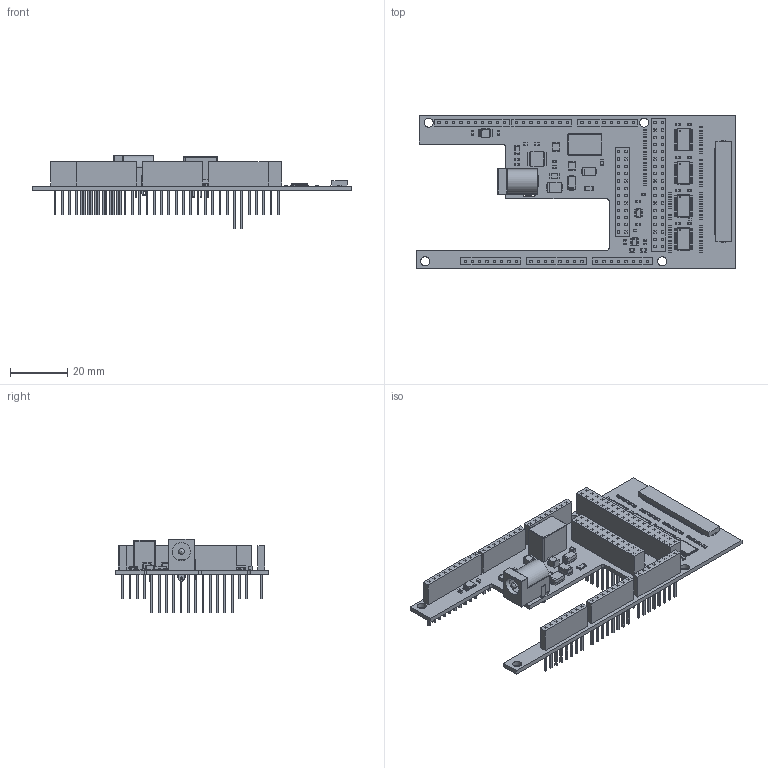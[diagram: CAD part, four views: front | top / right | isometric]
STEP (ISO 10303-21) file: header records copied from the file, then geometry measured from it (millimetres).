
FILE_DESCRIPTION(('KiCad electronic assembly'),'2;1');
FILE_NAME('giga-adapter.step','2026-10-23T11:28:29',('Pcbnew'),('Kicad') ,'Open CASCADE STEP processor 7.9','KiCad to STEP converter','Unknown' );
FILE_SCHEMA(('AUTOMOTIVE_DESIGN { 1 0 10303 214 1 1 1 1 }'));
Length unit declared in the file: millimetre
Products named in the file (52): giga-adapter 1; R_0402_1005Metric; D_SMA; C_1210_3225Metric; GIGA_J3_JDIGITAL; Open CASCADE STEP translator 7.9 7; C_0603_1608Metric; TSSOP-24_4.4x7.8mm_P0.65mm; R_0603_1608Metric; C_0805_2012Metric; VSSOP-8_3x3mm_P0.65mm; SOT-23-6; D_SMB; Converter_DCDC_TRACO_TSR-1_THT; Converter_DCDC_TRACO_TSR_1_THT; BarrelJack_Horizontal; GIGA_J4_JDIGITAL; Open CASCADE STEP translator 7.9 8; GIGA_J9_J5; Open CASCADE STEP translator 7.9 13; Molex_505110-6091; Open CASCADE STEP translator 7.9 1; GIGA_J8_JSIDE; Open CASCADE STEP translator 7.9 12; C_1206_3216Metric; GIGA_J5_JANALOG; Open CASCADE STEP translator 7.9 9; TPS26600-PWP0016A; Open CASCADE STEP translator 7.9 4; GIGA_J7_JANALOG; Open CASCADE STEP translator 7.9 11; GIGA_J6_JANALOG; Open CASCADE STEP translator 7.9 10; Fuse_Bourns_SF-1206SA-M; Fuse_1206_3216Metric; GIGA_J2_JDIGITAL; Open CASCADE STEP translator 7.9 6; giga-adapter_PCB
Assembly tree (142 placements, depth 3):
  giga-adapter 1
    R_0402_1005Metric  x65
      R_0402_1005Metric
    D_SMA  x2
      D_SMA
    C_1210_3225Metric  x2
      C_1210_3225Metric
    GIGA_J3_JDIGITAL
      Open CASCADE STEP translator 7.9 7
    C_0603_1608Metric  x15
      C_0603_1608Metric
    TSSOP-24_4.4x7.8mm_P0.65mm  x4
      TSSOP-24_4.4x7.8mm_P0.65mm
    R_0603_1608Metric  x6
      R_0603_1608Metric
    C_0805_2012Metric  x3
      C_0805_2012Metric
    VSSOP-8_3x3mm_P0.65mm
      VSSOP-8_3x3mm_P0.65mm
    SOT-23-6  x2
      SOT-23-6
    D_SMB
      D_SMB
    Converter_DCDC_TRACO_TSR-1_THT
      Converter_DCDC_TRACO_TSR_1_THT
    BarrelJack_Horizontal
      BarrelJack_Horizontal
    GIGA_J4_JDIGITAL
      Open CASCADE STEP translator 7.9 8
    GIGA_J9_J5
      Open CASCADE STEP translator 7.9 13
    Molex_505110-6091
      Open CASCADE STEP translator 7.9 1
    GIGA_J8_JSIDE
      Open CASCADE STEP translator 7.9 12
    C_1206_3216Metric
      C_1206_3216Metric
    GIGA_J5_JANALOG
      Open CASCADE STEP translator 7.9 9
    TPS26600-PWP0016A
      Open CASCADE STEP translator 7.9 4
    GIGA_J7_JANALOG
      Open CASCADE STEP translator 7.9 11
    GIGA_J6_JANALOG
      Open CASCADE STEP translator 7.9 10
    Fuse_Bourns_SF-1206SA-M
      Open CASCADE STEP translator 7.9 1
    Fuse_1206_3216Metric
      Fuse_1206_3216Metric
    GIGA_J2_JDIGITAL
      Open CASCADE STEP translator 7.9 6
    giga-adapter_PCB
Bounding box: 111 x 53.34 x 25.53 mm (x, y, z)
Volume: 14471.3 mm3; surface area: 24892.5 mm2
Topology: 312 solids, 312 shells, 6525 faces, 16342 edges, 10605 vertices
Faces by surface type: plane 4904, cylinder 1465, bspline 142, torus 7, sphere 5, extrusion 2
Full cylindrical faces by diameter (mm): 0.5 x3, 1 x5, 1.05 x110, 1.5 x2, 2 x2, 3.2 x4, 6.3 x1
Entity records: 92597 total; most frequent: CARTESIAN_POINT 14792, ORIENTED_EDGE 13712, DIRECTION 13556, EDGE_CURVE 6857, VECTOR 5938, LINE 5936, VERTEX_POINT 4493, AXIS2_PLACEMENT_3D 3809
